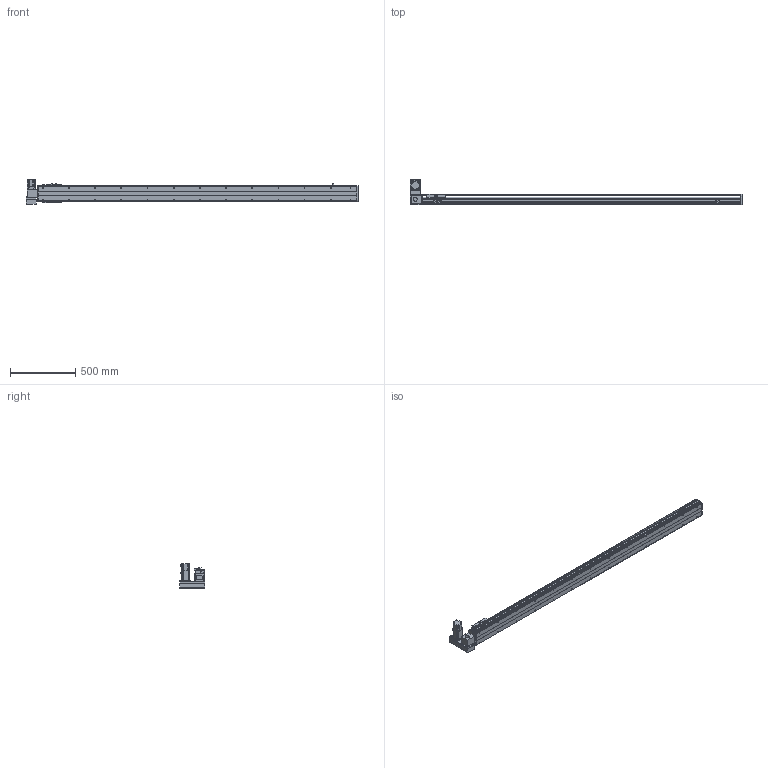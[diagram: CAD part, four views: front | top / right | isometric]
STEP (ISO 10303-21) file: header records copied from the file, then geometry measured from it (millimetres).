
FILE_DESCRIPTION( ( 'STEP AP214' ), '1' );
FILE_NAME( 'x:/temp/worker_27/temp/exporttempdir_6708_127_Nr6eD/format_0/PBS120-P40-S2150-LU-T40-C1-N(0).stp', '2022-06-06T00:33:30', ( 'License CC BY-ND 4.0' ), ( 'CADENAS' ), ' ', 'PARTsolutions', ' ' );
FILE_SCHEMA( ( 'AUTOMOTIVE_DESIGN { 1 0 10303 214 1 1 1 1 }' ) );
Length unit declared in the file: millimetre
Products named in the file (7): PBS120-P40-S2150-LU-T40-C1-N(0); _PBS120-S2150()_body; _PBS120T-LU_motors; _T40-p1; _PBS120_sliser; _PBS120_plant; _PBS120_sensor
Assembly tree (8 placements, depth 2):
  PBS120-P40-S2150-LU-T40-C1-N(0)
    _PBS120-S2150()_body
    _PBS120T-LU_motors
    _T40-p1
    _PBS120_sliser
    _PBS120_plant
    _PBS120_sensor  x3
Bounding box: 2536 x 198 x 189.7 mm (x, y, z)
Volume: 9704490.4 mm3; surface area: 1989625.8 mm2
Topology: 8 solids, 8 shells, 858 faces, 2206 edges, 1417 vertices
Faces by surface type: plane 559, cylinder 239, cone 58, torus 2
Full cylindrical faces by diameter (mm): 2.459 x6, 3.242 x4, 4 x2, 4.134 x4, 4.5 x10, 4.917 x30, 5.5 x11, 6 x2, 6.6 x1, 7 x2, 8.5 x4, 9 x4, 12 x1, 14 x1, 30 x2, 40 x1, 50 x2
Entity records: 28164 total; most frequent: DIRECTION 3860, CARTESIAN_POINT 3767, ORIENTED_EDGE 3562, EDGE_CURVE 1781, AXIS2_PLACEMENT_3D 1316, LINE 1228, VECTOR 1228, VERTEX_POINT 1223
